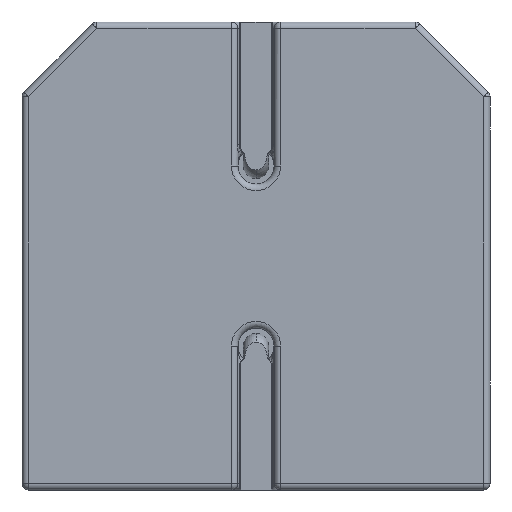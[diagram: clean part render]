
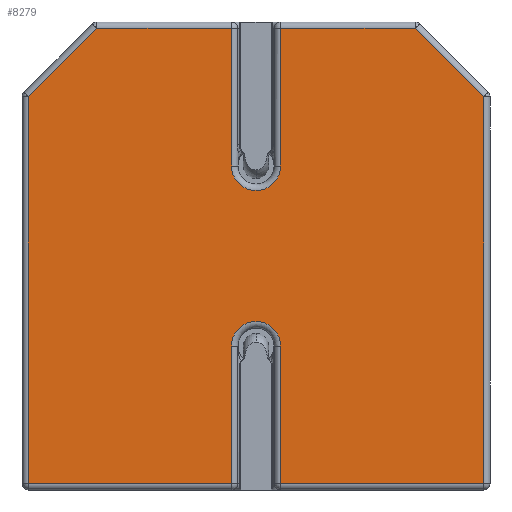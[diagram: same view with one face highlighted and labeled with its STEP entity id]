
A CAD part, left-side view. The second image highlights one B-rep face of the part: STEP entity #8279.
In plain terms, the highlighted planar face has unit normal (-1, 0, 0) as drawn and (0, -1, 0) by its records, which use the part's own axes.
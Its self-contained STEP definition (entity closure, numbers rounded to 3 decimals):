
#6006=DIRECTION('',(1.,0.,0.));
#6007=VECTOR('',#6006,5.64);
#6008=CARTESIAN_POINT('',(0.68,0.,-6.32));
#6009=LINE('',#6008,#6007);
#6010=DIRECTION('',(0.,0.,-1.));
#6011=VECTOR('',#6010,3.82);
#6012=CARTESIAN_POINT('',(0.68,0.,-2.5));
#6013=LINE('',#6012,#6011);
#6014=DIRECTION('',(0.,0.,1.));
#6015=VECTOR('',#6014,3.82);
#6016=CARTESIAN_POINT('',(-0.68,0.,-6.32));
#6017=LINE('',#6016,#6015);
#6018=DIRECTION('',(1.,0.,0.));
#6019=VECTOR('',#6018,5.64);
#6020=CARTESIAN_POINT('',(-6.32,0.,-6.32));
#6021=LINE('',#6020,#6019);
#6022=DIRECTION('',(0.,0.,1.));
#6023=VECTOR('',#6022,10.745);
#6024=CARTESIAN_POINT('',(-6.32,0.,-6.32));
#6025=LINE('',#6024,#6023);
#6026=DIRECTION('',(-0.707,0.,-0.707));
#6027=VECTOR('',#6026,2.679);
#6028=CARTESIAN_POINT('',(-4.425,0.,6.32));
#6029=LINE('',#6028,#6027);
#6030=DIRECTION('',(-1.,0.,0.));
#6031=VECTOR('',#6030,3.745);
#6032=CARTESIAN_POINT('',(-0.68,0.,6.32));
#6033=LINE('',#6032,#6031);
#6034=DIRECTION('',(0.,0.,1.));
#6035=VECTOR('',#6034,3.82);
#6036=CARTESIAN_POINT('',(-0.68,0.,2.5));
#6037=LINE('',#6036,#6035);
#6038=DIRECTION('',(0.,0.,-1.));
#6039=VECTOR('',#6038,3.82);
#6040=CARTESIAN_POINT('',(0.68,0.,6.32));
#6041=LINE('',#6040,#6039);
#6042=DIRECTION('',(-1.,0.,0.));
#6043=VECTOR('',#6042,3.745);
#6044=CARTESIAN_POINT('',(4.425,0.,6.32));
#6045=LINE('',#6044,#6043);
#6046=DIRECTION('',(-0.707,0.,0.707));
#6047=VECTOR('',#6046,2.679);
#6048=CARTESIAN_POINT('',(6.32,0.,4.425));
#6049=LINE('',#6048,#6047);
#6050=DIRECTION('',(0.,0.,1.));
#6051=VECTOR('',#6050,10.745);
#6052=CARTESIAN_POINT('',(6.32,0.,-6.32));
#6053=LINE('',#6052,#6051);
#6221=CARTESIAN_POINT('',(0.,0.,2.5));
#6222=DIRECTION('',(0.,1.,0.));
#6223=DIRECTION('',(1.,0.,0.));
#6224=AXIS2_PLACEMENT_3D('',#6221,#6222,#6223);
#6396=CARTESIAN_POINT('',(0.,0.,-2.5));
#6397=DIRECTION('',(0.,1.,0.));
#6398=DIRECTION('',(-1.,0.,0.));
#6399=AXIS2_PLACEMENT_3D('',#6396,#6397,#6398);
#8021=CARTESIAN_POINT('',(6.32,0.,-6.32));
#8022=CARTESIAN_POINT('',(6.32,0.,4.425));
#8023=VERTEX_POINT('',#8021);
#8024=VERTEX_POINT('',#8022);
#8025=CARTESIAN_POINT('',(-6.32,0.,4.425));
#8027=VERTEX_POINT('',#8025);
#8030=CARTESIAN_POINT('',(-4.425,0.,6.32));
#8032=VERTEX_POINT('',#8030);
#8103=CARTESIAN_POINT('',(-0.68,0.,6.32));
#8104=VERTEX_POINT('',#8103);
#8119=CARTESIAN_POINT('',(-0.68,0.,-2.5));
#8120=CARTESIAN_POINT('',(0.68,0.,-2.5));
#8121=VERTEX_POINT('',#8119);
#8122=VERTEX_POINT('',#8120);
#8129=CARTESIAN_POINT('',(0.68,0.,2.5));
#8130=VERTEX_POINT('',#8129);
#8131=CARTESIAN_POINT('',(-0.68,0.,2.5));
#8132=VERTEX_POINT('',#8131);
#8153=CARTESIAN_POINT('',(4.425,0.,6.32));
#8154=VERTEX_POINT('',#8153);
#8179=CARTESIAN_POINT('',(0.68,0.,-6.32));
#8180=VERTEX_POINT('',#8179);
#8183=CARTESIAN_POINT('',(-0.68,0.,-6.32));
#8184=VERTEX_POINT('',#8183);
#8187=CARTESIAN_POINT('',(0.68,0.,6.32));
#8188=VERTEX_POINT('',#8187);
#8228=CARTESIAN_POINT('',(-6.32,0.,-6.32));
#8229=VERTEX_POINT('',#8228);
#8244=CARTESIAN_POINT('',(0.,0.,0.));
#8245=DIRECTION('',(0.,1.,0.));
#8246=DIRECTION('',(0.,0.,1.));
#8247=AXIS2_PLACEMENT_3D('',#8244,#8245,#8246);
#8248=PLANE('',#8247);
#8250=ORIENTED_EDGE('',*,*,#8249,.F.);
#8252=ORIENTED_EDGE('',*,*,#8251,.F.);
#8254=ORIENTED_EDGE('',*,*,#8253,.F.);
#8256=ORIENTED_EDGE('',*,*,#8255,.F.);
#8258=ORIENTED_EDGE('',*,*,#8257,.F.);
#8260=ORIENTED_EDGE('',*,*,#8259,.T.);
#8262=ORIENTED_EDGE('',*,*,#8261,.F.);
#8264=ORIENTED_EDGE('',*,*,#8263,.F.);
#8266=ORIENTED_EDGE('',*,*,#8265,.F.);
#8268=ORIENTED_EDGE('',*,*,#8267,.F.);
#8270=ORIENTED_EDGE('',*,*,#8269,.F.);
#8272=ORIENTED_EDGE('',*,*,#8271,.F.);
#8274=ORIENTED_EDGE('',*,*,#8273,.F.);
#8276=ORIENTED_EDGE('',*,*,#8275,.F.);
#8277=EDGE_LOOP('',(#8250,#8252,#8254,#8256,#8258,#8260,#8262,#8264,#8266,#8268,
#8270,#8272,#8274,#8276));
#8278=FACE_OUTER_BOUND('',#8277,.F.);
#8279=ADVANCED_FACE('',(#8278),#8248,.F.);
#6225=CIRCLE('',#6224,0.68);
#6400=CIRCLE('',#6399,0.68);
#8249=EDGE_CURVE('',#8180,#8023,#6009,.T.);
#8251=EDGE_CURVE('',#8122,#8180,#6013,.T.);
#8253=EDGE_CURVE('',#8121,#8122,#6400,.T.);
#8255=EDGE_CURVE('',#8184,#8121,#6017,.T.);
#8257=EDGE_CURVE('',#8229,#8184,#6021,.T.);
#8259=EDGE_CURVE('',#8229,#8027,#6025,.T.);
#8261=EDGE_CURVE('',#8032,#8027,#6029,.T.);
#8263=EDGE_CURVE('',#8104,#8032,#6033,.T.);
#8265=EDGE_CURVE('',#8132,#8104,#6037,.T.);
#8267=EDGE_CURVE('',#8130,#8132,#6225,.T.);
#8269=EDGE_CURVE('',#8188,#8130,#6041,.T.);
#8271=EDGE_CURVE('',#8154,#8188,#6045,.T.);
#8273=EDGE_CURVE('',#8024,#8154,#6049,.T.);
#8275=EDGE_CURVE('',#8023,#8024,#6053,.T.);
